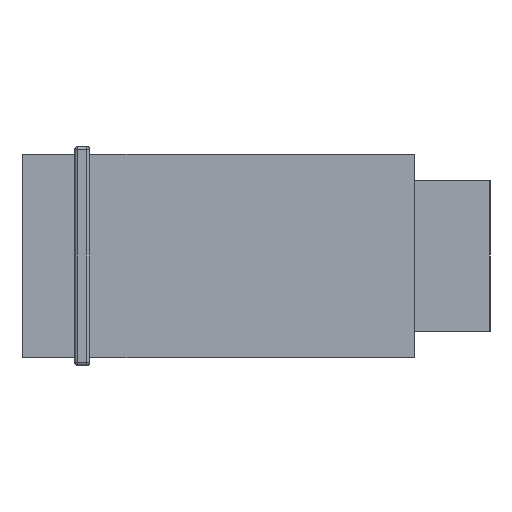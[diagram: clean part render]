
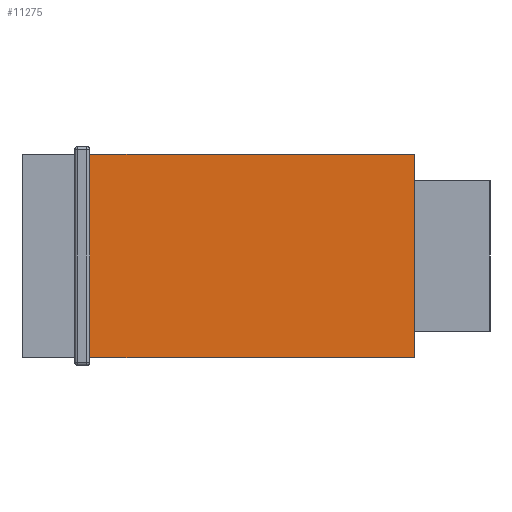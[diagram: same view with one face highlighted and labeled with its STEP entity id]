
A CAD part, left-side view. The second image highlights one B-rep face of the part: STEP entity #11275.
In plain terms, the highlighted planar face has unit normal (-1, 0, 0).
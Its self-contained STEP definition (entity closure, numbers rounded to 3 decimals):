
#303 = CARTESIAN_POINT ( 'NONE',  ( 0., 0., 0. ) ) ;
#411 = LINE ( 'NONE', #10287, #3492 ) ;
#476 = CARTESIAN_POINT ( 'NONE',  ( 0., 21.5, 13.5 ) ) ;
#796 = CARTESIAN_POINT ( 'NONE',  ( 0., 0., 13.5 ) ) ;
#1699 = DIRECTION ( 'NONE',  ( 0., 0., -1. ) ) ;
#1817 = VERTEX_POINT ( 'NONE', #796 ) ;
#2036 = CARTESIAN_POINT ( 'NONE',  ( 0., 26., 13.5 ) ) ;
#3094 = ORIENTED_EDGE ( 'NONE', *, *, #5241, .F. ) ;
#3457 = LINE ( 'NONE', #2036, #5878 ) ;
#3492 = VECTOR ( 'NONE', #5099, 1000. ) ;
#3750 = CARTESIAN_POINT ( 'NONE',  ( 0., 0., 9.75 ) ) ;
#4013 = ORIENTED_EDGE ( 'NONE', *, *, #7039, .F. ) ;
#4576 = VECTOR ( 'NONE', #6511, 1000. ) ;
#4779 = DIRECTION ( 'NONE',  ( 1., 0., 0. ) ) ;
#4785 = DIRECTION ( 'NONE',  ( 0., 0., 1. ) ) ;
#5060 = CARTESIAN_POINT ( 'NONE',  ( 0., 0., 0. ) ) ;
#5099 = DIRECTION ( 'NONE',  ( 0., 0., -1. ) ) ;
#5241 = EDGE_CURVE ( 'NONE', #8109, #11863, #10947, .T. ) ;
#5448 = FACE_OUTER_BOUND ( 'NONE', #8982, .T. ) ;
#5878 = VECTOR ( 'NONE', #9337, 1000. ) ;
#6511 = DIRECTION ( 'NONE',  ( 0., -1., 0. ) ) ;
#7039 = EDGE_CURVE ( 'NONE', #11863, #1817, #3457, .T. ) ;
#7145 = EDGE_CURVE ( 'NONE', #8109, #11417, #7347, .T. ) ;
#7347 = LINE ( 'NONE', #303, #4576 ) ;
#7913 = PLANE ( 'NONE',  #8627 ) ;
#8109 = VERTEX_POINT ( 'NONE', #10684 ) ;
#8483 = ORIENTED_EDGE ( 'NONE', *, *, #7145, .T. ) ;
#8627 = AXIS2_PLACEMENT_3D ( 'NONE', #3750, #4779, #1699 ) ;
#8683 = ORIENTED_EDGE ( 'NONE', *, *, #11446, .F. ) ;
#8982 = EDGE_LOOP ( 'NONE', ( #3094, #8483, #8683, #4013 ) ) ;
#9337 = DIRECTION ( 'NONE',  ( 0., -1., 0. ) ) ;
#10287 = CARTESIAN_POINT ( 'NONE',  ( 0., 0., 9.75 ) ) ;
#10684 = CARTESIAN_POINT ( 'NONE',  ( 0., 21.5, 0. ) ) ;
#10947 = LINE ( 'NONE', #12061, #13374 ) ;
#11275 = ADVANCED_FACE ( 'NONE', ( #5448 ), #7913, .F. ) ;
#11417 = VERTEX_POINT ( 'NONE', #5060 ) ;
#11446 = EDGE_CURVE ( 'NONE', #1817, #11417, #411, .T. ) ;
#11863 = VERTEX_POINT ( 'NONE', #476 ) ;
#12061 = CARTESIAN_POINT ( 'NONE',  ( 0., 21.5, 0. ) ) ;
#13374 = VECTOR ( 'NONE', #4785, 1000. ) ;
